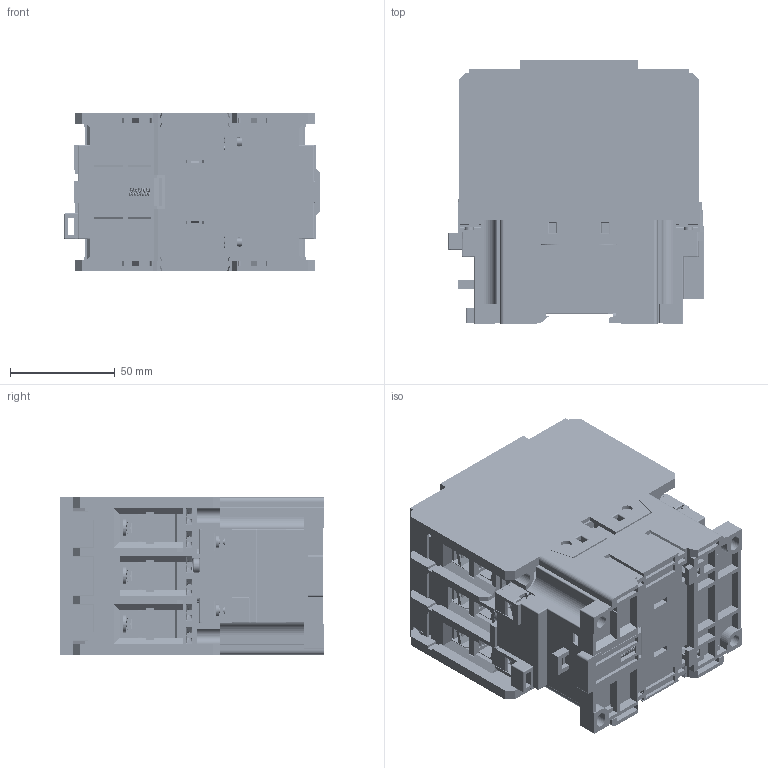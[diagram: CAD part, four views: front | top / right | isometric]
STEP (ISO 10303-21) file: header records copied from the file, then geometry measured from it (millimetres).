
FILE_DESCRIPTION((''),'2;1');
FILE_NAME('PRT0001','2023-07-08T11:33:54',('design1'),(''),'CREO PARAMETRIC BY PTC INC, 2022284','CREO PARAMETRIC BY PTC INC, 2022284','');
FILE_SCHEMA(('CONFIG_CONTROL_DESIGN'));
Products named in the file (1): PRT0001
Bounding box: 121.9 x 125.63 x 75 mm (x, y, z)
Volume: 462720.1 mm3; surface area: 387822.9 mm2
Topology: 21 solids, 56 shells, 12235 faces, 35753 edges, 23434 vertices
Faces by surface type: plane 8549, cylinder 2314, extrusion 736, bspline 228, torus 217, cone 177, sphere 14
Entity records: 436898 total; most frequent: CARTESIAN_POINT 116243, ORIENTED_EDGE 71356, DIRECTION 59726, EDGE_CURVE 35678, VECTOR 27308, LINE 26572, VERTEX_POINT 23434, AXIS2_PLACEMENT_3D 16209
